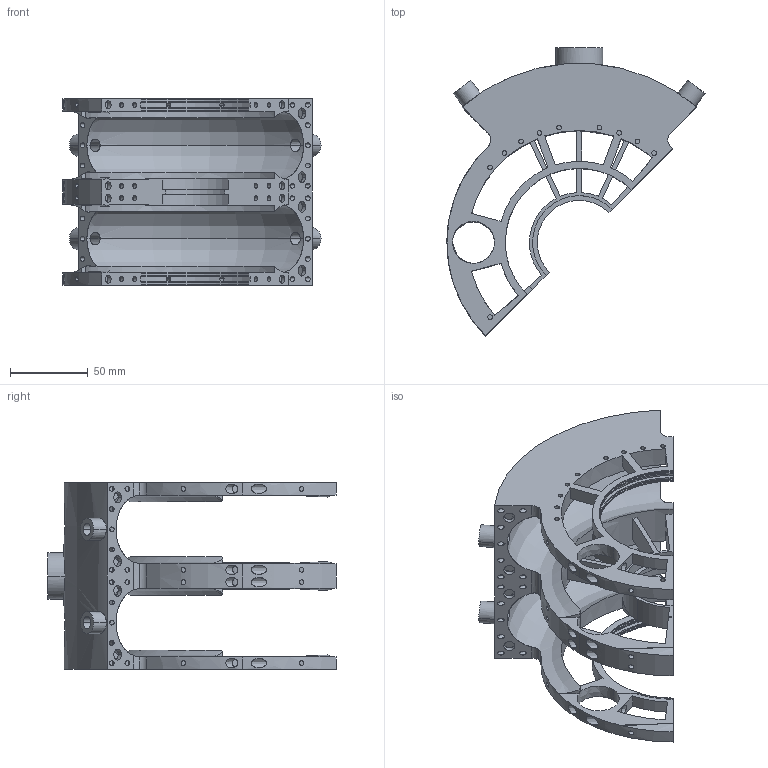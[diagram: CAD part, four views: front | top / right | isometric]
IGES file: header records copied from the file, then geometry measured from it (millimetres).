
Start section: IMSI TurboCAD v14.0
Global section: author: NULL; organization: NULL; date: 20240129.165731; units: millimetre
Bounding box: 165.82 x 185.1 x 120 mm (x, y, z)
Surface area: 207642.7 mm2 (no closed solid volume)
Topology: 0 solids, 0 shells, 724 faces, 4446 edges, 4440 vertices
Faces by surface type: revolution 477, extrusion 247
